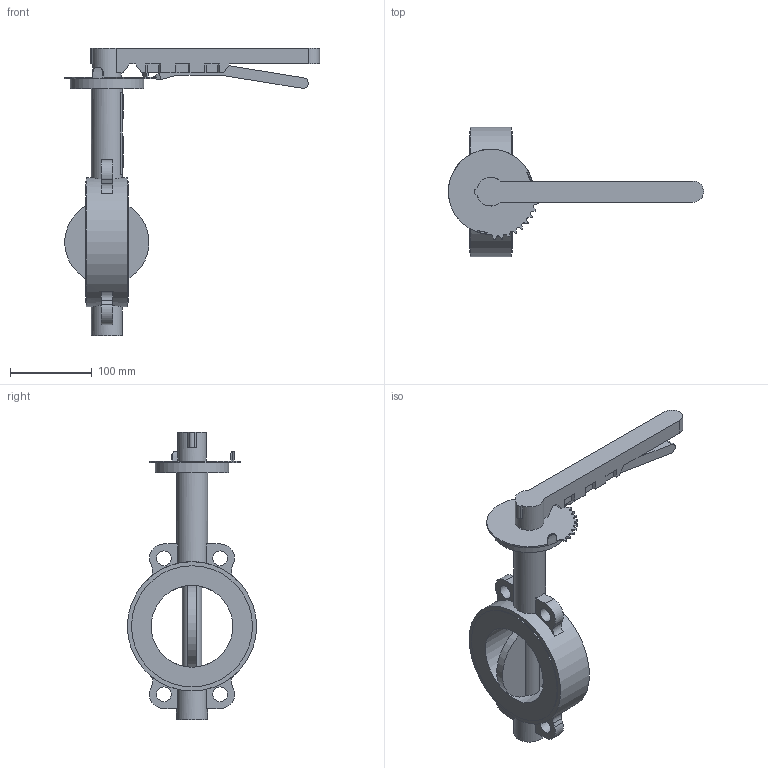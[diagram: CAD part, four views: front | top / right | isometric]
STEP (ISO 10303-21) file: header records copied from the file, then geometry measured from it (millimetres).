
FILE_DESCRIPTION(('STEP AP203'), '1');
FILE_NAME('青蜮铕 017WDN100', '', ('UNSPECIFIED'), ('UNSPECIFIED'), 'ASCON STEP Converter 1.6', 'ASCON Math Kernel', '');
FILE_SCHEMA(('CONFIG_CONTROL_DESIGN'));
Length unit declared in the file: millimetre
Bounding box: 312 x 158 x 351 mm (x, y, z)
Volume: 221286.4 mm3; surface area: 183205.2 mm2
Topology: 1 solids, 2 shells, 737 faces, 2175 edges, 1403 vertices
Faces by surface type: cylinder 488, plane 249
Full cylindrical faces by diameter (mm): 10 x4, 15.9 x1, 18 x4, 35 x1, 38 x2, 55 x1, 90 x1, 100 x1, 148 x2, 158 x1
Entity records: 31796 total; most frequent: CARTESIAN_POINT 5309, DIRECTION 4634, ORIENTED_EDGE 4253, EDGE_CURVE 2158, AXIS2_PLACEMENT_3D 1770, VERTEX_POINT 1403, LINE 1094, VECTOR 1094
